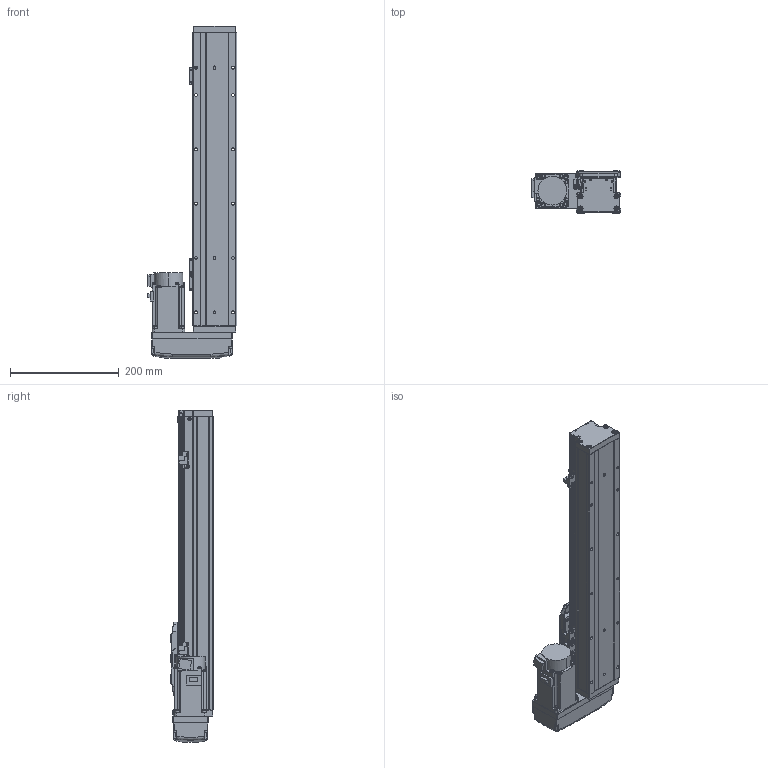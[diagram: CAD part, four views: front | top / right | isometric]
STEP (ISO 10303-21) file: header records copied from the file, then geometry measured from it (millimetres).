
FILE_DESCRIPTION (( 'STEP AP203' ), '1' );
FILE_NAME ('GTH8-350-BL-M20-C4.step', '2022-09-23T00:59:56', ( '微软用户' ), ( '微软中国' ), 'SwSTEP 2.0', 'SolidWorks 2020', '' );
FILE_SCHEMA (( 'CONFIG_CONTROL_DESIGN' ));
Length unit declared in the file: millimetre
Products named in the file (18): GTH80-004; GTH80-028; CTHA86-033_M40B; GTH80-006; GTH50-024; GTH8-350-BL-M20-C4; GTH80-013; GTH50-023; GBT 70.3-M3℅6; GBT96.1-2002 3×0.8; GTH80-022; BTH-M3X5X6; GTH80-001_350; GBT 70.1-M3℅6; hg-kn43j_-s100_; GTH80-003; GBT 70.1-M4×16; CTHA86-015-1_CTHA86-015-2
Assembly tree (57 placements, depth 2):
  GTH8-350-BL-M20-C4
    GTH80-001_350
    GTH80-003
    GTH80-004
    GTH80-006
    GTH80-013
    GBT 70.3-M3℅6  x4
    GTH80-022
    GBT 70.1-M3℅6  x14
    GBT 70.1-M4×16  x8
    GTH80-028  x2
    GTH50-024  x3
    GTH50-023  x3
    GBT96.1-2002 3×0.8  x6
    BTH-M3X5X6  x8
    hg-kn43j_-s100_
    CTHA86-015-1_CTHA86-015-2
    CTHA86-033_M40B
Bounding box: 164.8 x 78 x 611 mm (x, y, z)
Volume: 3328779.9 mm3; surface area: 379891.1 mm2
Topology: 59 solids, 59 shells, 2232 faces, 5151 edges, 3155 vertices
Faces by surface type: plane 1187, cylinder 603, cone 260, torus 166, bspline 8, sphere 8
Entity records: 40626 total; most frequent: CARTESIAN_POINT 7145, DIRECTION 6593, ORIENTED_EDGE 6120, EDGE_CURVE 3060, AXIS2_PLACEMENT_3D 2301, VECTOR 1991, LINE 1991, VERTEX_POINT 1930
